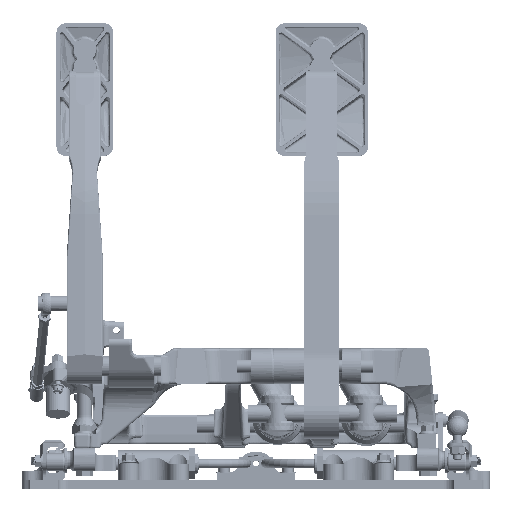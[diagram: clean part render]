
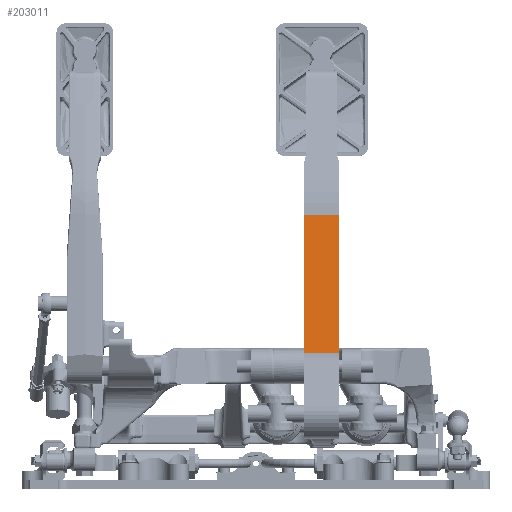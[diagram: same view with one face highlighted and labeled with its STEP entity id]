
A CAD part, front view. The second image highlights one B-rep face of the part: STEP entity #203011.
In plain terms, the highlighted planar face has unit normal (0, -0.995, 0.104).
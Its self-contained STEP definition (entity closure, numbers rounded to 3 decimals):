
#8087=LINE('',#360233,#16947);
#8159=LINE('',#362639,#17019);
#8179=LINE('',#362747,#17039);
#8180=LINE('',#362749,#17040);
#16947=VECTOR('',#243016,1000.);
#17019=VECTOR('',#243378,1000.);
#17039=VECTOR('',#243442,1000.);
#17040=VECTOR('',#243445,1000.);
#22105=PLANE('',#214763);
#58608=ORIENTED_EDGE('',*,*,#85941,.T.);
#58609=ORIENTED_EDGE('',*,*,#86245,.F.);
#58610=ORIENTED_EDGE('',*,*,#86203,.F.);
#58611=ORIENTED_EDGE('',*,*,#86246,.T.);
#85941=EDGE_CURVE('',#102265,#102264,#8087,.T.);
#86203=EDGE_CURVE('',#102406,#102396,#8159,.T.);
#86245=EDGE_CURVE('',#102396,#102264,#8179,.T.);
#86246=EDGE_CURVE('',#102406,#102265,#8180,.T.);
#102264=VERTEX_POINT('',#360232);
#102265=VERTEX_POINT('',#360234);
#102396=VERTEX_POINT('',#362619);
#102406=VERTEX_POINT('',#362638);
#120483=EDGE_LOOP('',(#58608,#58609,#58610,#58611));
#131133=FACE_BOUND('',#120483,.T.);
#203011=ADVANCED_FACE('',(#131133),#22105,.T.);
#214763=AXIS2_PLACEMENT_3D('',#362748,#243443,#243444);
#243016=DIRECTION('',(0.,0.105,0.995));
#243378=DIRECTION('',(0.,0.105,0.995));
#243442=DIRECTION('',(1.,0.,0.));
#243443=DIRECTION('',(0.,-0.995,0.105));
#243444=DIRECTION('',(0.,0.105,0.995));
#243445=DIRECTION('',(1.,0.,0.));
#360232=CARTESIAN_POINT('',(226.842,4.041,170.312));
#360233=CARTESIAN_POINT('',(226.842,-1.149,120.938));
#360234=CARTESIAN_POINT('',(226.842,-6.338,71.563));
#362619=CARTESIAN_POINT('',(201.444,4.041,170.312));
#362638=CARTESIAN_POINT('',(201.444,-6.338,71.563));
#362639=CARTESIAN_POINT('',(201.444,-1.149,120.938));
#362747=CARTESIAN_POINT('',(214.143,4.041,170.312));
#362748=CARTESIAN_POINT('',(226.842,-6.338,71.563));
#362749=CARTESIAN_POINT('',(214.143,-6.338,71.563));
